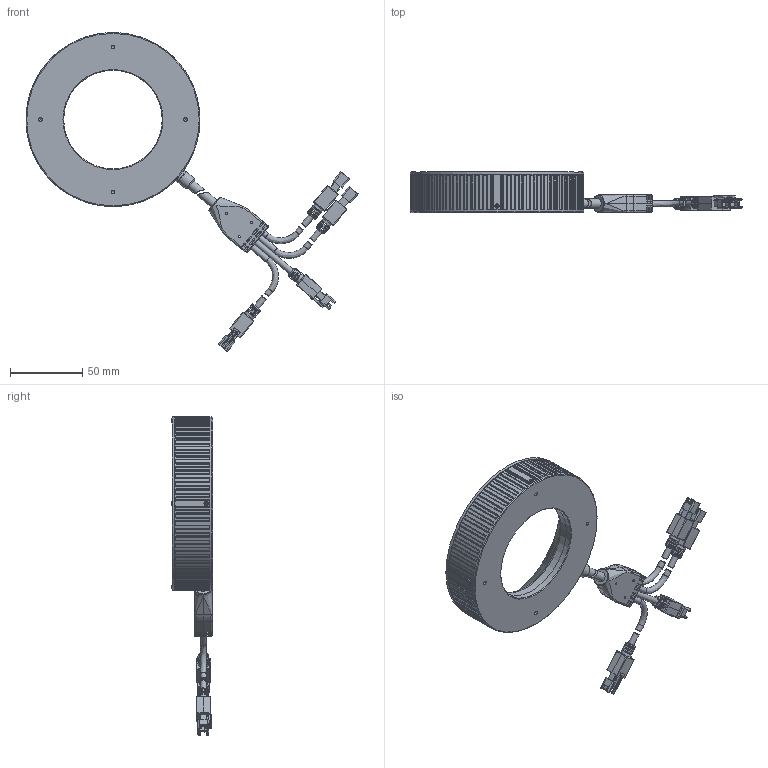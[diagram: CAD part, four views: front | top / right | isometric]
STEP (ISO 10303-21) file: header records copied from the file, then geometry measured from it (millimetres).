
FILE_DESCRIPTION (( 'STEP AP203' ), '1' );
FILE_NAME ('OPT-MSRI12045-X-V1.0U尨砩芞.STEP', '2025-02-12T02:57:43', ( '' ), ( '' ), 'SwSTEP 2.0', 'SolidWorks 2016', '' );
FILE_SCHEMA (( 'CONFIG_CONTROL_DESIGN' ));
Products named in the file (1): OPT-MSRI12045-X-V1.0U尨砩芞
Bounding box: 229.06 x 28.5 x 219.92 mm (x, y, z)
Surface area: 78651.3 mm2 (no closed solid volume)
Topology: 0 solids, 30 shells, 1624 faces, 4584 edges, 2969 vertices
Faces by surface type: plane 814, cylinder 601, cone 133, bspline 58, torus 18
Full cylindrical faces by diameter (mm): 1.1 x4, 1.4 x8, 1.5 x3, 1.6 x4, 1.8 x4, 2 x4, 2.2 x4, 2.5 x4, 2.6 x4, 4.1 x10, 5 x1, 6.4 x2, 7.5 x4, 8.6 x1, 9.3 x1, 9.8 x1, 68 x2, 70.4 x1, 77.5 x1, 112 x1, 116 x1, 120 x2
Entity records: 59835 total; most frequent: CARTESIAN_POINT 20521, ORIENTED_EDGE 8433, DIRECTION 7366, EDGE_CURVE 4400, VERTEX_POINT 2921, AXIS2_PLACEMENT_3D 2506, LINE 2354, VECTOR 2354
